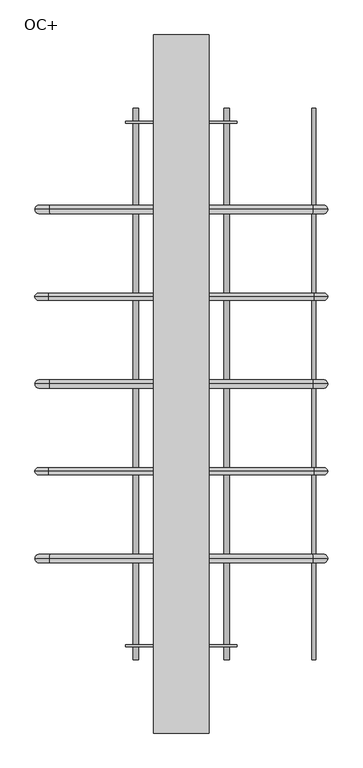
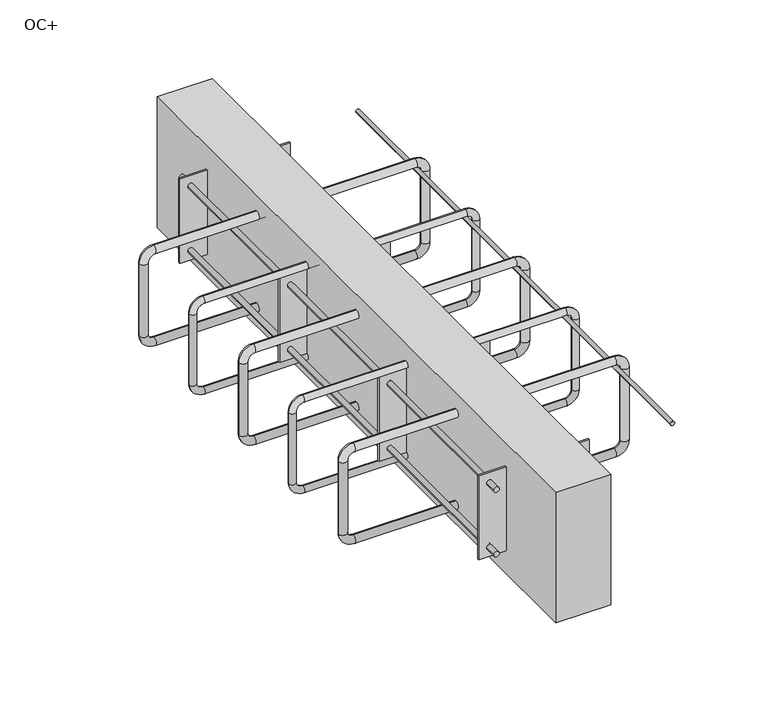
"""IFC4 building model written with IfcOpenShell, lengths in millimetres: proxy geometry, ACINOXplus_Typenreihe_Ux-Ox : OC+."""

from ifc_helpers import new_model, si_unit, point, frame, frame_2d, origin, place, context, project, spatial, polyline, circle_curve, ellipse_curve, trimmed, segment, composite_curve, outline, extrude, source, transform, mapped, element, save
from ifc_brep_helpers import cylinder_surface, revolved_surface, advanced_brep


def oc_8440c7d6(model_context):
    return source(origin(), model_context, "Body", "SolidModel", [
        advanced_brep(
        [(189.0, 0.0, -35.5), (189.0, 0.0, -23.5), (-189.0, 0.0, -23.5), (-189.0, 0.0, -35.5), (-198.0, 0.0, -44.5), (-210.0, 0.0, -44.5), (-210.0, 0.0, -155.5), (-198.0, 0.0, -155.5), (-189.0, 0.0, -164.5), (-189.0, 0.0, -176.5), (189.0, 0.0, -176.5), (189.0, 0.0, -164.5), (198.0, 0.0, -155.5), (210.0, 0.0, -155.5), (210.0, 0.0, -44.5), (198.0, 0.0, -44.5)],
        [
            (0, 1, circle_curve(frame((189.0, 0.0, -29.5), z_axis=(-1.0, 0.0, 0.0), x_axis=(0.0, 0.0, -1.0)), 6.0)),
            (1, 2),
            (2, 3, circle_curve(frame((-189.0, 0.0, -29.5), z_axis=(1.0, 0.0, 0.0), x_axis=(0.0, 0.0, -1.0)), 6.0)),
            (3, 0),
            (1, 0, circle_curve(frame((189.0, 0.0, -29.5), z_axis=(-1.0, 0.0, 0.0), x_axis=(0.0, 0.0, -1.0)), 6.0)),
            (3, 2, circle_curve(frame((-189.0, 0.0, -29.5), z_axis=(1.0, 0.0, 0.0), x_axis=(0.0, 0.0, -1.0)), 6.0)),
            (4, 3, circle_curve(frame((-189.0, 0.0, -44.5), z_axis=(0.0, 1.0, 0.0), x_axis=(0.0, 0.0, 1.0)), 9.0)),
            (2, 5, circle_curve(frame((-189.0, 0.0, -44.5), z_axis=(0.0, -1.0, 0.0), x_axis=(0.0, 0.0, 1.0)), 21.0)),
            (5, 4, circle_curve(frame((-204.0, 0.0, -44.5), z_axis=(0.0, 0.0, 1.0), x_axis=(1.0, 0.0, 0.0)), 6.0)),
            (4, 5, circle_curve(frame((-204.0, 0.0, -44.5), z_axis=(0.0, 0.0, 1.0), x_axis=(1.0, 0.0, 0.0)), 6.0)),
            (5, 6),
            (6, 7, circle_curve(frame((-204.0, 0.0, -155.5), z_axis=(0.0, 0.0, 1.0), x_axis=(1.0, 0.0, 0.0)), 6.0)),
            (7, 4),
            (7, 6, circle_curve(frame((-204.0, 0.0, -155.5), z_axis=(0.0, 0.0, 1.0), x_axis=(1.0, 0.0, 0.0)), 6.0)),
            (8, 7, circle_curve(frame((-189.0, 0.0, -155.5), z_axis=(0.0, 1.0, 0.0), x_axis=(-1.0, 0.0, 0.0)), 9.0)),
            (6, 9, circle_curve(frame((-189.0, 0.0, -155.5), z_axis=(0.0, -1.0, 0.0), x_axis=(-1.0, 0.0, 0.0)), 21.0)),
            (9, 8, circle_curve(frame((-189.0, 0.0, -170.5), z_axis=(-1.0, 0.0, 0.0), x_axis=(0.0, 0.0, 1.0)), 6.0)),
            (8, 9, circle_curve(frame((-189.0, 0.0, -170.5), z_axis=(-1.0, 0.0, 0.0), x_axis=(0.0, 0.0, 1.0)), 6.0)),
            (9, 10),
            (10, 11, circle_curve(frame((189.0, 0.0, -170.5), z_axis=(-1.0, 0.0, 0.0), x_axis=(0.0, 0.0, 1.0)), 6.0)),
            (11, 8),
            (11, 10, circle_curve(frame((189.0, 0.0, -170.5), z_axis=(-1.0, 0.0, 0.0), x_axis=(0.0, 0.0, 1.0)), 6.0)),
            (12, 11, circle_curve(frame((189.0, 0.0, -155.5), z_axis=(0.0, 1.0, 0.0), x_axis=(0.0, 0.0, -1.0)), 9.0)),
            (10, 13, circle_curve(frame((189.0, 0.0, -155.5), z_axis=(0.0, -1.0, 0.0), x_axis=(0.0, 0.0, -1.0)), 21.0)),
            (13, 12, circle_curve(frame((204.0, 0.0, -155.5), z_axis=(0.0, 0.0, -1.0), x_axis=(-1.0, 0.0, 0.0)), 6.0)),
            (12, 13, circle_curve(frame((204.0, 0.0, -155.5), z_axis=(0.0, 0.0, -1.0), x_axis=(-1.0, 0.0, 0.0)), 6.0)),
            (13, 14),
            (14, 15, circle_curve(frame((204.0, 0.0, -44.5), z_axis=(0.0, 0.0, -1.0), x_axis=(-1.0, 0.0, 0.0)), 6.0)),
            (15, 12),
            (15, 14, circle_curve(frame((204.0, 0.0, -44.5), z_axis=(0.0, 0.0, -1.0), x_axis=(-1.0, 0.0, 0.0)), 6.0)),
            (0, 15, circle_curve(frame((189.0, 0.0, -44.5), z_axis=(0.0, 1.0, 0.0), x_axis=(1.0, 0.0, 0.0)), 9.0)),
            (14, 1, circle_curve(frame((189.0, 0.0, -44.5), z_axis=(0.0, -1.0, 0.0), x_axis=(1.0, 0.0, 0.0)), 21.0)),
        ],
        [
            cylinder_surface(frame((189.0, 0.0, -29.5), z_axis=(1.0, 0.0, 0.0), x_axis=(0.0, 0.0, -1.0)), 6.0),
            revolved_surface(trimmed(ellipse_curve(frame((-189.0, 0.0, -29.5), z_axis=(1.0, 0.0, 0.0), x_axis=(0.0, 0.0, -1.0)), 6.0, 6.0), [point((-189.0, 0.0, -23.5))], [point((-189.0, 0.0, -35.5))], True, "CARTESIAN"), (-189.0, 0.0, -44.5), (0.0, -1.0, 0.0)),
            revolved_surface(trimmed(ellipse_curve(frame((-189.0, 0.0, -29.5), z_axis=(1.0, 0.0, 0.0), x_axis=(0.0, 0.0, -1.0)), 6.0, 6.0), [point((-189.0, 0.0, -35.5))], [point((-189.0, 0.0, -23.5))], True, "CARTESIAN"), (-189.0, 0.0, -44.5), (0.0, -1.0, 0.0)),
            cylinder_surface(frame((-204.0, 0.0, -44.5), z_axis=(0.0, 0.0, 1.0), x_axis=(1.0, 0.0, 0.0)), 6.0),
            revolved_surface(trimmed(ellipse_curve(frame((-204.0, 0.0, -155.5), z_axis=(0.0, 0.0, 1.0), x_axis=(1.0, 0.0, 0.0)), 6.0, 6.0), [point((-210.0, 0.0, -155.5))], [point((-198.0, 0.0, -155.5))], True, "CARTESIAN"), (-189.0, 0.0, -155.5), (0.0, -1.0, 0.0)),
            revolved_surface(trimmed(ellipse_curve(frame((-204.0, 0.0, -155.5), z_axis=(0.0, 0.0, 1.0), x_axis=(1.0, 0.0, 0.0)), 6.0, 6.0), [point((-198.0, 0.0, -155.5))], [point((-210.0, 0.0, -155.5))], True, "CARTESIAN"), (-189.0, 0.0, -155.5), (0.0, -1.0, 0.0)),
            cylinder_surface(frame((-189.0, 0.0, -170.5), z_axis=(-1.0, 0.0, 0.0), x_axis=(0.0, 0.0, 1.0)), 6.0),
            revolved_surface(trimmed(ellipse_curve(frame((189.0, 0.0, -170.5), z_axis=(-1.0, 0.0, 0.0), x_axis=(0.0, 0.0, 1.0)), 6.0, 6.0), [point((189.0, 0.0, -176.5))], [point((189.0, 0.0, -164.5))], True, "CARTESIAN"), (189.0, 0.0, -155.5), (0.0, -1.0, 0.0)),
            revolved_surface(trimmed(ellipse_curve(frame((189.0, 0.0, -170.5), z_axis=(-1.0, 0.0, 0.0), x_axis=(0.0, 0.0, 1.0)), 6.0, 6.0), [point((189.0, 0.0, -164.5))], [point((189.0, 0.0, -176.5))], True, "CARTESIAN"), (189.0, 0.0, -155.5), (0.0, -1.0, 0.0)),
            cylinder_surface(frame((204.0, 0.0, -155.5), z_axis=(0.0, 0.0, -1.0), x_axis=(-1.0, 0.0, 0.0)), 6.0),
            revolved_surface(trimmed(ellipse_curve(frame((204.0, 0.0, -44.5), z_axis=(0.0, 0.0, -1.0), x_axis=(-1.0, 0.0, 0.0)), 6.0, 6.0), [point((210.0, 0.0, -44.5))], [point((198.0, 0.0, -44.5))], True, "CARTESIAN"), (189.0, 0.0, -44.5), (0.0, -1.0, 0.0)),
            revolved_surface(trimmed(ellipse_curve(frame((204.0, 0.0, -44.5), z_axis=(0.0, 0.0, -1.0), x_axis=(-1.0, 0.0, 0.0)), 6.0, 6.0), [point((198.0, 0.0, -44.5))], [point((210.0, 0.0, -44.5))], True, "CARTESIAN"), (189.0, 0.0, -44.5), (0.0, -1.0, 0.0)),
        ],
        [
            (0, [[1, 2, 3, 4]]),
            (0, [[5, -4, 6, -2]]),
            (1, [[7, -3, 8, 9]]),
            (2, [[-8, -6, -7, 10]]),
            (3, [[-9, 11, 12, 13]]),
            (3, [[-10, -13, 14, -11]]),
            (4, [[15, -12, 16, 17]]),
            (5, [[-16, -14, -15, 18]]),
            (6, [[-17, 19, 20, 21]]),
            (6, [[-18, -21, 22, -19]]),
            (7, [[23, -20, 24, 25]]),
            (8, [[-24, -22, -23, 26]]),
            (9, [[-25, 27, 28, 29]]),
            (9, [[-26, -29, 30, -27]]),
            (10, [[31, -28, 32, -1]]),
            (11, [[-32, -30, -31, -5]]),
        ],
    ),
        advanced_brep(
        [(189.0, 250.0, -35.5), (189.0, 250.0, -23.5), (-189.0, 250.0, -23.5), (-189.0, 250.0, -35.5), (-198.0, 250.0, -44.5), (-210.0, 250.0, -44.5), (-210.0, 250.0, -155.5), (-198.0, 250.0, -155.5), (-189.0, 250.0, -164.5), (-189.0, 250.0, -176.5), (189.0, 250.0, -176.5), (189.0, 250.0, -164.5), (198.0, 250.0, -155.5), (210.0, 250.0, -155.5), (210.0, 250.0, -44.5), (198.0, 250.0, -44.5)],
        [
            (0, 1, circle_curve(frame((189.0, 250.0, -29.5), z_axis=(-1.0, 0.0, 0.0), x_axis=(0.0, 0.0, -1.0)), 6.0)),
            (1, 2),
            (2, 3, circle_curve(frame((-189.0, 250.0, -29.5), z_axis=(1.0, 0.0, 0.0), x_axis=(0.0, 0.0, -1.0)), 6.0)),
            (3, 0),
            (1, 0, circle_curve(frame((189.0, 250.0, -29.5), z_axis=(-1.0, 0.0, 0.0), x_axis=(0.0, 0.0, -1.0)), 6.0)),
            (3, 2, circle_curve(frame((-189.0, 250.0, -29.5), z_axis=(1.0, 0.0, 0.0), x_axis=(0.0, 0.0, -1.0)), 6.0)),
            (4, 3, circle_curve(frame((-189.0, 250.0, -44.5), z_axis=(0.0, 1.0, 0.0), x_axis=(0.0, 0.0, 1.0)), 9.0)),
            (2, 5, circle_curve(frame((-189.0, 250.0, -44.5), z_axis=(0.0, -1.0, 0.0), x_axis=(0.0, 0.0, 1.0)), 21.0)),
            (5, 4, circle_curve(frame((-204.0, 250.0, -44.5), z_axis=(0.0, 0.0, 1.0), x_axis=(1.0, 0.0, 0.0)), 6.0)),
            (4, 5, circle_curve(frame((-204.0, 250.0, -44.5), z_axis=(0.0, 0.0, 1.0), x_axis=(1.0, 0.0, 0.0)), 6.0)),
            (5, 6),
            (6, 7, circle_curve(frame((-204.0, 250.0, -155.5), z_axis=(0.0, 0.0, 1.0), x_axis=(1.0, 0.0, 0.0)), 6.0)),
            (7, 4),
            (7, 6, circle_curve(frame((-204.0, 250.0, -155.5), z_axis=(0.0, 0.0, 1.0), x_axis=(1.0, 0.0, 0.0)), 6.0)),
            (8, 7, circle_curve(frame((-189.0, 250.0, -155.5), z_axis=(0.0, 1.0, 0.0), x_axis=(-1.0, 0.0, 0.0)), 9.0)),
            (6, 9, circle_curve(frame((-189.0, 250.0, -155.5), z_axis=(0.0, -1.0, 0.0), x_axis=(-1.0, 0.0, 0.0)), 21.0)),
            (9, 8, circle_curve(frame((-189.0, 250.0, -170.5), z_axis=(-1.0, 0.0, 0.0), x_axis=(0.0, 0.0, 1.0)), 6.0)),
            (8, 9, circle_curve(frame((-189.0, 250.0, -170.5), z_axis=(-1.0, 0.0, 0.0), x_axis=(0.0, 0.0, 1.0)), 6.0)),
            (9, 10),
            (10, 11, circle_curve(frame((189.0, 250.0, -170.5), z_axis=(-1.0, 0.0, 0.0), x_axis=(0.0, 0.0, 1.0)), 6.0)),
            (11, 8),
            (11, 10, circle_curve(frame((189.0, 250.0, -170.5), z_axis=(-1.0, 0.0, 0.0), x_axis=(0.0, 0.0, 1.0)), 6.0)),
            (12, 11, circle_curve(frame((189.0, 250.0, -155.5), z_axis=(0.0, 1.0, 0.0), x_axis=(0.0, 0.0, -1.0)), 9.0)),
            (10, 13, circle_curve(frame((189.0, 250.0, -155.5), z_axis=(0.0, -1.0, 0.0), x_axis=(0.0, 0.0, -1.0)), 21.0)),
            (13, 12, circle_curve(frame((204.0, 250.0, -155.5), z_axis=(0.0, 0.0, -1.0), x_axis=(-1.0, 0.0, 0.0)), 6.0)),
            (12, 13, circle_curve(frame((204.0, 250.0, -155.5), z_axis=(0.0, 0.0, -1.0), x_axis=(-1.0, 0.0, 0.0)), 6.0)),
            (13, 14),
            (14, 15, circle_curve(frame((204.0, 250.0, -44.5), z_axis=(0.0, 0.0, -1.0), x_axis=(-1.0, 0.0, 0.0)), 6.0)),
            (15, 12),
            (15, 14, circle_curve(frame((204.0, 250.0, -44.5), z_axis=(0.0, 0.0, -1.0), x_axis=(-1.0, 0.0, 0.0)), 6.0)),
            (0, 15, circle_curve(frame((189.0, 250.0, -44.5), z_axis=(0.0, 1.0, 0.0), x_axis=(1.0, 0.0, 0.0)), 9.0)),
            (14, 1, circle_curve(frame((189.0, 250.0, -44.5), z_axis=(0.0, -1.0, 0.0), x_axis=(1.0, 0.0, 0.0)), 21.0)),
        ],
        [
            cylinder_surface(frame((189.0, 250.0, -29.5), z_axis=(1.0, 0.0, 0.0), x_axis=(0.0, 0.0, -1.0)), 6.0),
            revolved_surface(trimmed(ellipse_curve(frame((-189.0, 250.0, -29.5), z_axis=(1.0, 0.0, 0.0), x_axis=(0.0, 0.0, -1.0)), 6.0, 6.0), [point((-189.0, 250.0, -23.5))], [point((-189.0, 250.0, -35.5))], True, "CARTESIAN"), (-189.0, 250.0, -44.5), (0.0, -1.0, 0.0)),
            revolved_surface(trimmed(ellipse_curve(frame((-189.0, 250.0, -29.5), z_axis=(1.0, 0.0, 0.0), x_axis=(0.0, 0.0, -1.0)), 6.0, 6.0), [point((-189.0, 250.0, -35.5))], [point((-189.0, 250.0, -23.5))], True, "CARTESIAN"), (-189.0, 250.0, -44.5), (0.0, -1.0, 0.0)),
            cylinder_surface(frame((-204.0, 250.0, -44.5), z_axis=(0.0, 0.0, 1.0), x_axis=(1.0, 0.0, 0.0)), 6.0),
            revolved_surface(trimmed(ellipse_curve(frame((-204.0, 250.0, -155.5), z_axis=(0.0, 0.0, 1.0), x_axis=(1.0, 0.0, 0.0)), 6.0, 6.0), [point((-210.0, 250.0, -155.5))], [point((-198.0, 250.0, -155.5))], True, "CARTESIAN"), (-189.0, 250.0, -155.5), (0.0, -1.0, 0.0)),
            revolved_surface(trimmed(ellipse_curve(frame((-204.0, 250.0, -155.5), z_axis=(0.0, 0.0, 1.0), x_axis=(1.0, 0.0, 0.0)), 6.0, 6.0), [point((-198.0, 250.0, -155.5))], [point((-210.0, 250.0, -155.5))], True, "CARTESIAN"), (-189.0, 250.0, -155.5), (0.0, -1.0, 0.0)),
            cylinder_surface(frame((-189.0, 250.0, -170.5), z_axis=(-1.0, 0.0, 0.0), x_axis=(0.0, 0.0, 1.0)), 6.0),
            revolved_surface(trimmed(ellipse_curve(frame((189.0, 250.0, -170.5), z_axis=(-1.0, 0.0, 0.0), x_axis=(0.0, 0.0, 1.0)), 6.0, 6.0), [point((189.0, 250.0, -176.5))], [point((189.0, 250.0, -164.5))], True, "CARTESIAN"), (189.0, 250.0, -155.5), (0.0, -1.0, 0.0)),
            revolved_surface(trimmed(ellipse_curve(frame((189.0, 250.0, -170.5), z_axis=(-1.0, 0.0, 0.0), x_axis=(0.0, 0.0, 1.0)), 6.0, 6.0), [point((189.0, 250.0, -164.5))], [point((189.0, 250.0, -176.5))], True, "CARTESIAN"), (189.0, 250.0, -155.5), (0.0, -1.0, 0.0)),
            cylinder_surface(frame((204.0, 250.0, -155.5), z_axis=(0.0, 0.0, -1.0), x_axis=(-1.0, 0.0, 0.0)), 6.0),
            revolved_surface(trimmed(ellipse_curve(frame((204.0, 250.0, -44.5), z_axis=(0.0, 0.0, -1.0), x_axis=(-1.0, 0.0, 0.0)), 6.0, 6.0), [point((210.0, 250.0, -44.5))], [point((198.0, 250.0, -44.5))], True, "CARTESIAN"), (189.0, 250.0, -44.5), (0.0, -1.0, 0.0)),
            revolved_surface(trimmed(ellipse_curve(frame((204.0, 250.0, -44.5), z_axis=(0.0, 0.0, -1.0), x_axis=(-1.0, 0.0, 0.0)), 6.0, 6.0), [point((198.0, 250.0, -44.5))], [point((210.0, 250.0, -44.5))], True, "CARTESIAN"), (189.0, 250.0, -44.5), (0.0, -1.0, 0.0)),
        ],
        [
            (0, [[1, 2, 3, 4]]),
            (0, [[5, -4, 6, -2]]),
            (1, [[7, -3, 8, 9]]),
            (2, [[-8, -6, -7, 10]]),
            (3, [[-9, 11, 12, 13]]),
            (3, [[-10, -13, 14, -11]]),
            (4, [[15, -12, 16, 17]]),
            (5, [[-16, -14, -15, 18]]),
            (6, [[-17, 19, 20, 21]]),
            (6, [[-18, -21, 22, -19]]),
            (7, [[23, -20, 24, 25]]),
            (8, [[-24, -22, -23, 26]]),
            (9, [[-25, 27, 28, 29]]),
            (9, [[-26, -29, 30, -27]]),
            (10, [[31, -28, 32, -1]]),
            (11, [[-32, -30, -31, -5]]),
        ],
    ),
        advanced_brep(
        [(189.0, -250.0, -35.5), (189.0, -250.0, -23.5), (-189.0, -250.0, -23.5), (-189.0, -250.0, -35.5), (-198.0, -250.0, -44.5), (-210.0, -250.0, -44.5), (-210.0, -250.0, -155.5), (-198.0, -250.0, -155.5), (-189.0, -250.0, -164.5), (-189.0, -250.0, -176.5), (189.0, -250.0, -176.5), (189.0, -250.0, -164.5), (198.0, -250.0, -155.5), (210.0, -250.0, -155.5), (210.0, -250.0, -44.5), (198.0, -250.0, -44.5)],
        [
            (0, 1, circle_curve(frame((189.0, -250.0, -29.5), z_axis=(-1.0, 0.0, 0.0), x_axis=(0.0, 0.0, -1.0)), 6.0)),
            (1, 2),
            (2, 3, circle_curve(frame((-189.0, -250.0, -29.5), z_axis=(1.0, 0.0, 0.0), x_axis=(0.0, 0.0, -1.0)), 6.0)),
            (3, 0),
            (1, 0, circle_curve(frame((189.0, -250.0, -29.5), z_axis=(-1.0, 0.0, 0.0), x_axis=(0.0, 0.0, -1.0)), 6.0)),
            (3, 2, circle_curve(frame((-189.0, -250.0, -29.5), z_axis=(1.0, 0.0, 0.0), x_axis=(0.0, 0.0, -1.0)), 6.0)),
            (4, 3, circle_curve(frame((-189.0, -250.0, -44.5), z_axis=(0.0, 1.0, 0.0), x_axis=(0.0, 0.0, 1.0)), 9.0)),
            (2, 5, circle_curve(frame((-189.0, -250.0, -44.5), z_axis=(0.0, -1.0, 0.0), x_axis=(0.0, 0.0, 1.0)), 21.0)),
            (5, 4, circle_curve(frame((-204.0, -250.0, -44.5), z_axis=(0.0, 0.0, 1.0), x_axis=(1.0, 0.0, 0.0)), 6.0)),
            (4, 5, circle_curve(frame((-204.0, -250.0, -44.5), z_axis=(0.0, 0.0, 1.0), x_axis=(1.0, 0.0, 0.0)), 6.0)),
            (5, 6),
            (6, 7, circle_curve(frame((-204.0, -250.0, -155.5), z_axis=(0.0, 0.0, 1.0), x_axis=(1.0, 0.0, 0.0)), 6.0)),
            (7, 4),
            (7, 6, circle_curve(frame((-204.0, -250.0, -155.5), z_axis=(0.0, 0.0, 1.0), x_axis=(1.0, 0.0, 0.0)), 6.0)),
            (8, 7, circle_curve(frame((-189.0, -250.0, -155.5), z_axis=(0.0, 1.0, 0.0), x_axis=(-1.0, 0.0, 0.0)), 9.0)),
            (6, 9, circle_curve(frame((-189.0, -250.0, -155.5), z_axis=(0.0, -1.0, 0.0), x_axis=(-1.0, 0.0, 0.0)), 21.0)),
            (9, 8, circle_curve(frame((-189.0, -250.0, -170.5), z_axis=(-1.0, 0.0, 0.0), x_axis=(0.0, 0.0, 1.0)), 6.0)),
            (8, 9, circle_curve(frame((-189.0, -250.0, -170.5), z_axis=(-1.0, 0.0, 0.0), x_axis=(0.0, 0.0, 1.0)), 6.0)),
            (9, 10),
            (10, 11, circle_curve(frame((189.0, -250.0, -170.5), z_axis=(-1.0, 0.0, 0.0), x_axis=(0.0, 0.0, 1.0)), 6.0)),
            (11, 8),
            (11, 10, circle_curve(frame((189.0, -250.0, -170.5), z_axis=(-1.0, 0.0, 0.0), x_axis=(0.0, 0.0, 1.0)), 6.0)),
            (12, 11, circle_curve(frame((189.0, -250.0, -155.5), z_axis=(0.0, 1.0, 0.0), x_axis=(0.0, 0.0, -1.0)), 9.0)),
            (10, 13, circle_curve(frame((189.0, -250.0, -155.5), z_axis=(0.0, -1.0, 0.0), x_axis=(0.0, 0.0, -1.0)), 21.0)),
            (13, 12, circle_curve(frame((204.0, -250.0, -155.5), z_axis=(0.0, 0.0, -1.0), x_axis=(-1.0, 0.0, 0.0)), 6.0)),
            (12, 13, circle_curve(frame((204.0, -250.0, -155.5), z_axis=(0.0, 0.0, -1.0), x_axis=(-1.0, 0.0, 0.0)), 6.0)),
            (13, 14),
            (14, 15, circle_curve(frame((204.0, -250.0, -44.5), z_axis=(0.0, 0.0, -1.0), x_axis=(-1.0, 0.0, 0.0)), 6.0)),
            (15, 12),
            (15, 14, circle_curve(frame((204.0, -250.0, -44.5), z_axis=(0.0, 0.0, -1.0), x_axis=(-1.0, 0.0, 0.0)), 6.0)),
            (0, 15, circle_curve(frame((189.0, -250.0, -44.5), z_axis=(0.0, 1.0, 0.0), x_axis=(1.0, 0.0, 0.0)), 9.0)),
            (14, 1, circle_curve(frame((189.0, -250.0, -44.5), z_axis=(0.0, -1.0, 0.0), x_axis=(1.0, 0.0, 0.0)), 21.0)),
        ],
        [
            cylinder_surface(frame((189.0, -250.0, -29.5), z_axis=(1.0, 0.0, 0.0), x_axis=(0.0, 0.0, -1.0)), 6.0),
            revolved_surface(trimmed(ellipse_curve(frame((-189.0, -250.0, -29.5), z_axis=(1.0, 0.0, 0.0), x_axis=(0.0, 0.0, -1.0)), 6.0, 6.0), [point((-189.0, -250.0, -23.5))], [point((-189.0, -250.0, -35.5))], True, "CARTESIAN"), (-189.0, -250.0, -44.5), (0.0, -1.0, 0.0)),
            revolved_surface(trimmed(ellipse_curve(frame((-189.0, -250.0, -29.5), z_axis=(1.0, 0.0, 0.0), x_axis=(0.0, 0.0, -1.0)), 6.0, 6.0), [point((-189.0, -250.0, -35.5))], [point((-189.0, -250.0, -23.5))], True, "CARTESIAN"), (-189.0, -250.0, -44.5), (0.0, -1.0, 0.0)),
            cylinder_surface(frame((-204.0, -250.0, -44.5), z_axis=(0.0, 0.0, 1.0), x_axis=(1.0, 0.0, 0.0)), 6.0),
            revolved_surface(trimmed(ellipse_curve(frame((-204.0, -250.0, -155.5), z_axis=(0.0, 0.0, 1.0), x_axis=(1.0, 0.0, 0.0)), 6.0, 6.0), [point((-210.0, -250.0, -155.5))], [point((-198.0, -250.0, -155.5))], True, "CARTESIAN"), (-189.0, -250.0, -155.5), (0.0, -1.0, 0.0)),
            revolved_surface(trimmed(ellipse_curve(frame((-204.0, -250.0, -155.5), z_axis=(0.0, 0.0, 1.0), x_axis=(1.0, 0.0, 0.0)), 6.0, 6.0), [point((-198.0, -250.0, -155.5))], [point((-210.0, -250.0, -155.5))], True, "CARTESIAN"), (-189.0, -250.0, -155.5), (0.0, -1.0, 0.0)),
            cylinder_surface(frame((-189.0, -250.0, -170.5), z_axis=(-1.0, 0.0, 0.0), x_axis=(0.0, 0.0, 1.0)), 6.0),
            revolved_surface(trimmed(ellipse_curve(frame((189.0, -250.0, -170.5), z_axis=(-1.0, 0.0, 0.0), x_axis=(0.0, 0.0, 1.0)), 6.0, 6.0), [point((189.0, -250.0, -176.5))], [point((189.0, -250.0, -164.5))], True, "CARTESIAN"), (189.0, -250.0, -155.5), (0.0, -1.0, 0.0)),
            revolved_surface(trimmed(ellipse_curve(frame((189.0, -250.0, -170.5), z_axis=(-1.0, 0.0, 0.0), x_axis=(0.0, 0.0, 1.0)), 6.0, 6.0), [point((189.0, -250.0, -164.5))], [point((189.0, -250.0, -176.5))], True, "CARTESIAN"), (189.0, -250.0, -155.5), (0.0, -1.0, 0.0)),
            cylinder_surface(frame((204.0, -250.0, -155.5), z_axis=(0.0, 0.0, -1.0), x_axis=(-1.0, 0.0, 0.0)), 6.0),
            revolved_surface(trimmed(ellipse_curve(frame((204.0, -250.0, -44.5), z_axis=(0.0, 0.0, -1.0), x_axis=(-1.0, 0.0, 0.0)), 6.0, 6.0), [point((210.0, -250.0, -44.5))], [point((198.0, -250.0, -44.5))], True, "CARTESIAN"), (189.0, -250.0, -44.5), (0.0, -1.0, 0.0)),
            revolved_surface(trimmed(ellipse_curve(frame((204.0, -250.0, -44.5), z_axis=(0.0, 0.0, -1.0), x_axis=(-1.0, 0.0, 0.0)), 6.0, 6.0), [point((198.0, -250.0, -44.5))], [point((210.0, -250.0, -44.5))], True, "CARTESIAN"), (189.0, -250.0, -44.5), (0.0, -1.0, 0.0)),
        ],
        [
            (0, [[1, 2, 3, 4]]),
            (0, [[5, -4, 6, -2]]),
            (1, [[7, -3, 8, 9]]),
            (2, [[-8, -6, -7, 10]]),
            (3, [[-9, 11, 12, 13]]),
            (3, [[-10, -13, 14, -11]]),
            (4, [[15, -12, 16, 17]]),
            (5, [[-16, -14, -15, 18]]),
            (6, [[-17, 19, 20, 21]]),
            (6, [[-18, -21, 22, -19]]),
            (7, [[23, -20, 24, 25]]),
            (8, [[-24, -22, -23, 26]]),
            (9, [[-25, 27, 28, 29]]),
            (9, [[-26, -29, 30, -27]]),
            (10, [[31, -28, 32, -1]]),
            (11, [[-32, -30, -31, -5]]),
        ],
    ),
        extrude(outline(composite_curve([segment(trimmed(circle_curve(frame_2d((-38.5, 190.0)), 3.0), [point((-38.5, 193.0))], [point((-38.5, 187.0))], False, "CARTESIAN"), True, "CONTINUOUS"), segment(trimmed(circle_curve(frame_2d((-38.5, 190.0)), 3.0), [point((-38.5, 187.0))], [point((-38.5, 193.0))], False, "CARTESIAN"), True, "CONTINUOUS")], self_intersect=False)), frame((0.0, -395.0, 0.0), z_axis=(0.0, 1.0, 0.0), x_axis=(0.0, 0.0, 1.0)), (0.0, 0.0, 1.0), 790.0),
        extrude(outline(polyline([(40.0, 500.0), (40.0, -500.0), (-40.0, -500.0), (-40.0, 500.0), (40.0, 500.0)])), frame((0.0, 0.0, -200.0), z_axis=(0.0, 0.0, 1.0), x_axis=(1.0, 0.0, 0.0)), (0.0, 0.0, 1.0), 200.0),
        extrude(outline(polyline([(80.0, -123.5), (80.0, -126.5), (-80.0, -126.5), (-80.0, -123.5), (80.0, -123.5)])), frame((0.0, 0.0, -164.5), z_axis=(0.0, 0.0, 1.0), x_axis=(1.0, 0.0, 0.0)), (0.0, 0.0, 1.0), 129.0),
        extrude(outline(polyline([(80.0, 126.5), (80.0, 123.5), (-80.0, 123.5), (-80.0, 126.5), (80.0, 126.5)])), frame((0.0, 0.0, -164.5), z_axis=(0.0, 0.0, 1.0), x_axis=(1.0, 0.0, 0.0)), (0.0, 0.0, 1.0), 129.0),
        extrude(outline(polyline([(80.0, -373.5), (80.0, -376.5), (-80.0, -376.5), (-80.0, -373.5), (80.0, -373.5)])), frame((0.0, 0.0, -164.5), z_axis=(0.0, 0.0, 1.0), x_axis=(1.0, 0.0, 0.0)), (0.0, 0.0, 1.0), 129.0),
        extrude(outline(polyline([(80.0, 376.5), (80.0, 373.5), (-80.0, 373.5), (-80.0, 376.5), (80.0, 376.5)])), frame((0.0, 0.0, -164.5), z_axis=(0.0, 0.0, 1.0), x_axis=(1.0, 0.0, 0.0)), (0.0, 0.0, 1.0), 129.0),
        extrude(outline(composite_curve([segment(trimmed(circle_curve(frame_2d((-149.5, -65.0)), 4.0), [point((-149.5, -61.0))], [point((-149.5, -69.0))], False, "CARTESIAN"), True, "CONTINUOUS"), segment(trimmed(circle_curve(frame_2d((-149.5, -65.0)), 4.0), [point((-149.5, -69.0))], [point((-149.5, -61.0))], False, "CARTESIAN"), True, "CONTINUOUS")], self_intersect=False)), frame((0.0, -395.0, 0.0), z_axis=(0.0, 1.0, 0.0), x_axis=(0.0, 0.0, 1.0)), (0.0, 0.0, 1.0), 18.5),
        extrude(outline(composite_curve([segment(trimmed(circle_curve(frame_2d((-149.5, -65.0)), 4.0), [point((-149.5, -69.0))], [point((-149.5, -61.0))], False, "CARTESIAN"), True, "CONTINUOUS"), segment(trimmed(circle_curve(frame_2d((-149.5, -65.0)), 4.0), [point((-149.5, -61.0))], [point((-149.5, -69.0))], False, "CARTESIAN"), True, "CONTINUOUS")], self_intersect=False)), frame((0.0, -373.5, 0.0), z_axis=(0.0, 1.0, 0.0), x_axis=(0.0, 0.0, 1.0)), (0.0, 0.0, 1.0), 497.0),
        extrude(outline(composite_curve([segment(trimmed(circle_curve(frame_2d((-149.5, -65.0)), 4.0), [point((-149.5, -69.0))], [point((-149.5, -61.0))], False, "CARTESIAN"), True, "CONTINUOUS"), segment(trimmed(circle_curve(frame_2d((-149.5, -65.0)), 4.0), [point((-149.5, -61.0))], [point((-149.5, -69.0))], False, "CARTESIAN"), True, "CONTINUOUS")], self_intersect=False)), frame((0.0, 376.5, 0.0), z_axis=(0.0, 1.0, 0.0), x_axis=(0.0, 0.0, 1.0)), (0.0, 0.0, 1.0), 18.5),
        extrude(outline(composite_curve([segment(trimmed(circle_curve(frame_2d((-149.5, -65.0)), 4.0), [point((-149.5, -69.0))], [point((-149.5, -61.0))], False, "CARTESIAN"), True, "CONTINUOUS"), segment(trimmed(circle_curve(frame_2d((-149.5, -65.0)), 4.0), [point((-149.5, -61.0))], [point((-149.5, -69.0))], False, "CARTESIAN"), True, "CONTINUOUS")], self_intersect=False)), frame((0.0, 126.5, 0.0), z_axis=(0.0, 1.0, 0.0), x_axis=(0.0, 0.0, 1.0)), (0.0, 0.0, 1.0), 247.0),
        extrude(outline(composite_curve([segment(trimmed(circle_curve(frame_2d((-149.5, 65.0)), 4.0), [point((-149.5, 69.0))], [point((-149.5, 61.0))], False, "CARTESIAN"), True, "CONTINUOUS"), segment(trimmed(circle_curve(frame_2d((-149.5, 65.0)), 4.0), [point((-149.5, 61.0))], [point((-149.5, 69.0))], False, "CARTESIAN"), True, "CONTINUOUS")], self_intersect=False)), frame((0.0, -395.0, 0.0), z_axis=(0.0, 1.0, 0.0), x_axis=(0.0, 0.0, 1.0)), (0.0, 0.0, 1.0), 18.5),
        extrude(outline(composite_curve([segment(trimmed(circle_curve(frame_2d((-149.5, 65.0)), 4.0), [point((-149.5, 61.0))], [point((-149.5, 69.0))], False, "CARTESIAN"), True, "CONTINUOUS"), segment(trimmed(circle_curve(frame_2d((-149.5, 65.0)), 4.0), [point((-149.5, 69.0))], [point((-149.5, 61.0))], False, "CARTESIAN"), True, "CONTINUOUS")], self_intersect=False)), frame((0.0, -373.5, 0.0), z_axis=(0.0, 1.0, 0.0), x_axis=(0.0, 0.0, 1.0)), (0.0, 0.0, 1.0), 497.0),
        extrude(outline(composite_curve([segment(trimmed(circle_curve(frame_2d((-149.5, 65.0)), 4.0), [point((-149.5, 61.0))], [point((-149.5, 69.0))], False, "CARTESIAN"), True, "CONTINUOUS"), segment(trimmed(circle_curve(frame_2d((-149.5, 65.0)), 4.0), [point((-149.5, 69.0))], [point((-149.5, 61.0))], False, "CARTESIAN"), True, "CONTINUOUS")], self_intersect=False)), frame((0.0, 376.5, 0.0), z_axis=(0.0, 1.0, 0.0), x_axis=(0.0, 0.0, 1.0)), (0.0, 0.0, 1.0), 18.5),
        extrude(outline(composite_curve([segment(trimmed(circle_curve(frame_2d((-149.5, 65.0)), 4.0), [point((-149.5, 61.0))], [point((-149.5, 69.0))], False, "CARTESIAN"), True, "CONTINUOUS"), segment(trimmed(circle_curve(frame_2d((-149.5, 65.0)), 4.0), [point((-149.5, 69.0))], [point((-149.5, 61.0))], False, "CARTESIAN"), True, "CONTINUOUS")], self_intersect=False)), frame((0.0, 126.5, 0.0), z_axis=(0.0, 1.0, 0.0), x_axis=(0.0, 0.0, 1.0)), (0.0, 0.0, 1.0), 247.0),
        extrude(outline(composite_curve([segment(trimmed(circle_curve(frame_2d((-50.5, -65.0)), 4.0), [point((-50.5, -69.0))], [point((-50.5, -61.0))], False, "CARTESIAN"), True, "CONTINUOUS"), segment(trimmed(circle_curve(frame_2d((-50.5, -65.0)), 4.0), [point((-50.5, -61.0))], [point((-50.5, -69.0))], False, "CARTESIAN"), True, "CONTINUOUS")], self_intersect=False)), frame((0.0, 376.5, 0.0), z_axis=(0.0, 1.0, 0.0), x_axis=(0.0, 0.0, 1.0)), (0.0, 0.0, 1.0), 18.5),
        extrude(outline(composite_curve([segment(trimmed(circle_curve(frame_2d((-50.5, -65.0)), 4.0), [point((-50.5, -61.0))], [point((-50.5, -69.0))], False, "CARTESIAN"), True, "CONTINUOUS"), segment(trimmed(circle_curve(frame_2d((-50.5, -65.0)), 4.0), [point((-50.5, -69.0))], [point((-50.5, -61.0))], False, "CARTESIAN"), True, "CONTINUOUS")], self_intersect=False)), frame((0.0, -395.0, 0.0), z_axis=(0.0, 1.0, 0.0), x_axis=(0.0, 0.0, 1.0)), (0.0, 0.0, 1.0), 18.5),
        extrude(outline(composite_curve([segment(trimmed(circle_curve(frame_2d((-50.5, -65.0)), 4.0), [point((-50.5, -69.0))], [point((-50.5, -61.0))], False, "CARTESIAN"), True, "CONTINUOUS"), segment(trimmed(circle_curve(frame_2d((-50.5, -65.0)), 4.0), [point((-50.5, -61.0))], [point((-50.5, -69.0))], False, "CARTESIAN"), True, "CONTINUOUS")], self_intersect=False)), frame((0.0, -373.5, 0.0), z_axis=(0.0, 1.0, 0.0), x_axis=(0.0, 0.0, 1.0)), (0.0, 0.0, 1.0), 497.0),
        extrude(outline(composite_curve([segment(trimmed(circle_curve(frame_2d((-50.5, -65.0)), 4.0), [point((-50.5, -69.0))], [point((-50.5, -61.0))], False, "CARTESIAN"), True, "CONTINUOUS"), segment(trimmed(circle_curve(frame_2d((-50.5, -65.0)), 4.0), [point((-50.5, -61.0))], [point((-50.5, -69.0))], False, "CARTESIAN"), True, "CONTINUOUS")], self_intersect=False)), frame((0.0, 126.5, 0.0), z_axis=(0.0, 1.0, 0.0), x_axis=(0.0, 0.0, 1.0)), (0.0, 0.0, 1.0), 247.0),
        extrude(outline(composite_curve([segment(trimmed(circle_curve(frame_2d((-50.5, 65.0)), 4.0), [point((-50.5, 61.0))], [point((-50.5, 69.0))], False, "CARTESIAN"), True, "CONTINUOUS"), segment(trimmed(circle_curve(frame_2d((-50.5, 65.0)), 4.0), [point((-50.5, 69.0))], [point((-50.5, 61.0))], False, "CARTESIAN"), True, "CONTINUOUS")], self_intersect=False)), frame((0.0, 376.5, 0.0), z_axis=(0.0, 1.0, 0.0), x_axis=(0.0, 0.0, 1.0)), (0.0, 0.0, 1.0), 18.5),
        extrude(outline(composite_curve([segment(trimmed(circle_curve(frame_2d((-50.5, 65.0)), 4.0), [point((-50.5, 69.0))], [point((-50.5, 61.0))], False, "CARTESIAN"), True, "CONTINUOUS"), segment(trimmed(circle_curve(frame_2d((-50.5, 65.0)), 4.0), [point((-50.5, 61.0))], [point((-50.5, 69.0))], False, "CARTESIAN"), True, "CONTINUOUS")], self_intersect=False)), frame((0.0, -395.0, 0.0), z_axis=(0.0, 1.0, 0.0), x_axis=(0.0, 0.0, 1.0)), (0.0, 0.0, 1.0), 18.5),
        extrude(outline(composite_curve([segment(trimmed(circle_curve(frame_2d((-50.5, 65.0)), 4.0), [point((-50.5, 61.0))], [point((-50.5, 69.0))], False, "CARTESIAN"), True, "CONTINUOUS"), segment(trimmed(circle_curve(frame_2d((-50.5, 65.0)), 4.0), [point((-50.5, 69.0))], [point((-50.5, 61.0))], False, "CARTESIAN"), True, "CONTINUOUS")], self_intersect=False)), frame((0.0, -373.5, 0.0), z_axis=(0.0, 1.0, 0.0), x_axis=(0.0, 0.0, 1.0)), (0.0, 0.0, 1.0), 497.0),
        extrude(outline(composite_curve([segment(trimmed(circle_curve(frame_2d((-50.5, 65.0)), 4.0), [point((-50.5, 61.0))], [point((-50.5, 69.0))], False, "CARTESIAN"), True, "CONTINUOUS"), segment(trimmed(circle_curve(frame_2d((-50.5, 65.0)), 4.0), [point((-50.5, 69.0))], [point((-50.5, 61.0))], False, "CARTESIAN"), True, "CONTINUOUS")], self_intersect=False)), frame((0.0, 126.5, 0.0), z_axis=(0.0, 1.0, 0.0), x_axis=(0.0, 0.0, 1.0)), (0.0, 0.0, 1.0), 247.0),
        advanced_brep(
        [(190.0, 125.0, -35.5), (190.0, 125.0, -25.5), (-190.0, 125.0, -25.5), (-190.0, 125.0, -35.5), (-200.0, 125.0, -45.5), (-210.0, 125.0, -45.5), (-210.0, 125.0, -154.5), (-200.0, 125.0, -154.5), (-190.0, 125.0, -164.5), (-190.0, 125.0, -174.5), (190.0, 125.0, -174.5), (190.0, 125.0, -164.5), (200.0, 125.0, -154.5), (210.0, 125.0, -154.5), (210.0, 125.0, -45.5), (200.0, 125.0, -45.5)],
        [
            (0, 1, circle_curve(frame((190.0, 125.0, -30.5), z_axis=(-1.0, 0.0, 0.0), x_axis=(0.0, 0.0, -1.0)), 5.0)),
            (1, 2),
            (2, 3, circle_curve(frame((-190.0, 125.0, -30.5), z_axis=(1.0, 0.0, 0.0), x_axis=(0.0, 0.0, -1.0)), 5.0)),
            (3, 0),
            (1, 0, circle_curve(frame((190.0, 125.0, -30.5), z_axis=(-1.0, 0.0, 0.0), x_axis=(0.0, 0.0, -1.0)), 5.0)),
            (3, 2, circle_curve(frame((-190.0, 125.0, -30.5), z_axis=(1.0, 0.0, 0.0), x_axis=(0.0, 0.0, -1.0)), 5.0)),
            (4, 3, circle_curve(frame((-190.0, 125.0, -45.5), z_axis=(0.0, 1.0, 0.0), x_axis=(0.0, 0.0, 1.0)), 10.0)),
            (2, 5, circle_curve(frame((-190.0, 125.0, -45.5), z_axis=(0.0, -1.0, 0.0), x_axis=(0.0, 0.0, 1.0)), 20.0)),
            (5, 4, circle_curve(frame((-205.0, 125.0, -45.5), z_axis=(0.0, 0.0, 1.0), x_axis=(1.0, 0.0, 0.0)), 5.0)),
            (4, 5, circle_curve(frame((-205.0, 125.0, -45.5), z_axis=(0.0, 0.0, 1.0), x_axis=(1.0, 0.0, 0.0)), 5.0)),
            (5, 6),
            (6, 7, circle_curve(frame((-205.0, 125.0, -154.5), z_axis=(0.0, 0.0, 1.0), x_axis=(1.0, 0.0, 0.0)), 5.0)),
            (7, 4),
            (7, 6, circle_curve(frame((-205.0, 125.0, -154.5), z_axis=(0.0, 0.0, 1.0), x_axis=(1.0, 0.0, 0.0)), 5.0)),
            (8, 7, circle_curve(frame((-190.0, 125.0, -154.5), z_axis=(0.0, 1.0, 0.0), x_axis=(-1.0, 0.0, 0.0)), 10.0)),
            (6, 9, circle_curve(frame((-190.0, 125.0, -154.5), z_axis=(0.0, -1.0, 0.0), x_axis=(-1.0, 0.0, 0.0)), 20.0)),
            (9, 8, circle_curve(frame((-190.0, 125.0, -169.5), z_axis=(-1.0, 0.0, 0.0), x_axis=(0.0, 0.0, 1.0)), 5.0)),
            (8, 9, circle_curve(frame((-190.0, 125.0, -169.5), z_axis=(-1.0, 0.0, 0.0), x_axis=(0.0, 0.0, 1.0)), 5.0)),
            (9, 10),
            (10, 11, circle_curve(frame((190.0, 125.0, -169.5), z_axis=(-1.0, 0.0, 0.0), x_axis=(0.0, 0.0, 1.0)), 5.0)),
            (11, 8),
            (11, 10, circle_curve(frame((190.0, 125.0, -169.5), z_axis=(-1.0, 0.0, 0.0), x_axis=(0.0, 0.0, 1.0)), 5.0)),
            (12, 11, circle_curve(frame((190.0, 125.0, -154.5), z_axis=(0.0, 1.0, 0.0), x_axis=(0.0, 0.0, -1.0)), 10.0)),
            (10, 13, circle_curve(frame((190.0, 125.0, -154.5), z_axis=(0.0, -1.0, 0.0), x_axis=(0.0, 0.0, -1.0)), 20.0)),
            (13, 12, circle_curve(frame((205.0, 125.0, -154.5), z_axis=(0.0, 0.0, -1.0), x_axis=(-1.0, 0.0, 0.0)), 5.0)),
            (12, 13, circle_curve(frame((205.0, 125.0, -154.5), z_axis=(0.0, 0.0, -1.0), x_axis=(-1.0, 0.0, 0.0)), 5.0)),
            (13, 14),
            (14, 15, circle_curve(frame((205.0, 125.0, -45.5), z_axis=(0.0, 0.0, -1.0), x_axis=(-1.0, 0.0, 0.0)), 5.0)),
            (15, 12),
            (15, 14, circle_curve(frame((205.0, 125.0, -45.5), z_axis=(0.0, 0.0, -1.0), x_axis=(-1.0, 0.0, 0.0)), 5.0)),
            (0, 15, circle_curve(frame((190.0, 125.0, -45.5), z_axis=(0.0, 1.0, 0.0), x_axis=(1.0, 0.0, 0.0)), 10.0)),
            (14, 1, circle_curve(frame((190.0, 125.0, -45.5), z_axis=(0.0, -1.0, 0.0), x_axis=(1.0, 0.0, 0.0)), 20.0)),
        ],
        [
            cylinder_surface(frame((190.0, 125.0, -30.5), z_axis=(1.0, 0.0, 0.0), x_axis=(0.0, 0.0, -1.0)), 5.0),
            revolved_surface(trimmed(ellipse_curve(frame((-190.0, 125.0, -30.5), z_axis=(1.0, 0.0, 0.0), x_axis=(0.0, 0.0, -1.0)), 5.0, 5.0), [point((-190.0, 125.0, -25.5))], [point((-190.0, 125.0, -35.5))], True, "CARTESIAN"), (-190.0, 125.0, -45.5), (0.0, -1.0, 0.0)),
            revolved_surface(trimmed(ellipse_curve(frame((-190.0, 125.0, -30.5), z_axis=(1.0, 0.0, 0.0), x_axis=(0.0, 0.0, -1.0)), 5.0, 5.0), [point((-190.0, 125.0, -35.5))], [point((-190.0, 125.0, -25.5))], True, "CARTESIAN"), (-190.0, 125.0, -45.5), (0.0, -1.0, 0.0)),
            cylinder_surface(frame((-205.0, 125.0, -45.5), z_axis=(0.0, 0.0, 1.0), x_axis=(1.0, 0.0, 0.0)), 5.0),
            revolved_surface(trimmed(ellipse_curve(frame((-205.0, 125.0, -154.5), z_axis=(0.0, 0.0, 1.0), x_axis=(1.0, 0.0, 0.0)), 5.0, 5.0), [point((-210.0, 125.0, -154.5))], [point((-200.0, 125.0, -154.5))], True, "CARTESIAN"), (-190.0, 125.0, -154.5), (0.0, -1.0, 0.0)),
            revolved_surface(trimmed(ellipse_curve(frame((-205.0, 125.0, -154.5), z_axis=(0.0, 0.0, 1.0), x_axis=(1.0, 0.0, 0.0)), 5.0, 5.0), [point((-200.0, 125.0, -154.5))], [point((-210.0, 125.0, -154.5))], True, "CARTESIAN"), (-190.0, 125.0, -154.5), (0.0, -1.0, 0.0)),
            cylinder_surface(frame((-190.0, 125.0, -169.5), z_axis=(-1.0, 0.0, 0.0), x_axis=(0.0, 0.0, 1.0)), 5.0),
            revolved_surface(trimmed(ellipse_curve(frame((190.0, 125.0, -169.5), z_axis=(-1.0, 0.0, 0.0), x_axis=(0.0, 0.0, 1.0)), 5.0, 5.0), [point((190.0, 125.0, -174.5))], [point((190.0, 125.0, -164.5))], True, "CARTESIAN"), (190.0, 125.0, -154.5), (0.0, -1.0, 0.0)),
            revolved_surface(trimmed(ellipse_curve(frame((190.0, 125.0, -169.5), z_axis=(-1.0, 0.0, 0.0), x_axis=(0.0, 0.0, 1.0)), 5.0, 5.0), [point((190.0, 125.0, -164.5))], [point((190.0, 125.0, -174.5))], True, "CARTESIAN"), (190.0, 125.0, -154.5), (0.0, -1.0, 0.0)),
            cylinder_surface(frame((205.0, 125.0, -154.5), z_axis=(0.0, 0.0, -1.0), x_axis=(-1.0, 0.0, 0.0)), 5.0),
            revolved_surface(trimmed(ellipse_curve(frame((205.0, 125.0, -45.5), z_axis=(0.0, 0.0, -1.0), x_axis=(-1.0, 0.0, 0.0)), 5.0, 5.0), [point((210.0, 125.0, -45.5))], [point((200.0, 125.0, -45.5))], True, "CARTESIAN"), (190.0, 125.0, -45.5), (0.0, -1.0, 0.0)),
            revolved_surface(trimmed(ellipse_curve(frame((205.0, 125.0, -45.5), z_axis=(0.0, 0.0, -1.0), x_axis=(-1.0, 0.0, 0.0)), 5.0, 5.0), [point((200.0, 125.0, -45.5))], [point((210.0, 125.0, -45.5))], True, "CARTESIAN"), (190.0, 125.0, -45.5), (0.0, -1.0, 0.0)),
        ],
        [
            (0, [[1, 2, 3, 4]]),
            (0, [[5, -4, 6, -2]]),
            (1, [[7, -3, 8, 9]]),
            (2, [[-8, -6, -7, 10]]),
            (3, [[-9, 11, 12, 13]]),
            (3, [[-10, -13, 14, -11]]),
            (4, [[15, -12, 16, 17]]),
            (5, [[-16, -14, -15, 18]]),
            (6, [[-17, 19, 20, 21]]),
            (6, [[-18, -21, 22, -19]]),
            (7, [[23, -20, 24, 25]]),
            (8, [[-24, -22, -23, 26]]),
            (9, [[-25, 27, 28, 29]]),
            (9, [[-26, -29, 30, -27]]),
            (10, [[31, -28, 32, -1]]),
            (11, [[-32, -30, -31, -5]]),
        ],
    ),
        advanced_brep(
        [(190.0, -125.0, -35.5), (190.0, -125.0, -25.5), (-190.0, -125.0, -25.5), (-190.0, -125.0, -35.5), (-200.0, -125.0, -45.5), (-210.0, -125.0, -45.5), (-210.0, -125.0, -154.5), (-200.0, -125.0, -154.5), (-190.0, -125.0, -164.5), (-190.0, -125.0, -174.5), (190.0, -125.0, -174.5), (190.0, -125.0, -164.5), (200.0, -125.0, -154.5), (210.0, -125.0, -154.5), (210.0, -125.0, -45.5), (200.0, -125.0, -45.5)],
        [
            (0, 1, circle_curve(frame((190.0, -125.0, -30.5), z_axis=(-1.0, 0.0, 0.0), x_axis=(0.0, 0.0, -1.0)), 5.0)),
            (1, 2),
            (2, 3, circle_curve(frame((-190.0, -125.0, -30.5), z_axis=(1.0, 0.0, 0.0), x_axis=(0.0, 0.0, -1.0)), 5.0)),
            (3, 0),
            (1, 0, circle_curve(frame((190.0, -125.0, -30.5), z_axis=(-1.0, 0.0, 0.0), x_axis=(0.0, 0.0, -1.0)), 5.0)),
            (3, 2, circle_curve(frame((-190.0, -125.0, -30.5), z_axis=(1.0, 0.0, 0.0), x_axis=(0.0, 0.0, -1.0)), 5.0)),
            (4, 3, circle_curve(frame((-190.0, -125.0, -45.5), z_axis=(0.0, 1.0, 0.0), x_axis=(0.0, 0.0, 1.0)), 10.0)),
            (2, 5, circle_curve(frame((-190.0, -125.0, -45.5), z_axis=(0.0, -1.0, 0.0), x_axis=(0.0, 0.0, 1.0)), 20.0)),
            (5, 4, circle_curve(frame((-205.0, -125.0, -45.5), z_axis=(0.0, 0.0, 1.0), x_axis=(1.0, 0.0, 0.0)), 5.0)),
            (4, 5, circle_curve(frame((-205.0, -125.0, -45.5), z_axis=(0.0, 0.0, 1.0), x_axis=(1.0, 0.0, 0.0)), 5.0)),
            (5, 6),
            (6, 7, circle_curve(frame((-205.0, -125.0, -154.5), z_axis=(0.0, 0.0, 1.0), x_axis=(1.0, 0.0, 0.0)), 5.0)),
            (7, 4),
            (7, 6, circle_curve(frame((-205.0, -125.0, -154.5), z_axis=(0.0, 0.0, 1.0), x_axis=(1.0, 0.0, 0.0)), 5.0)),
            (8, 7, circle_curve(frame((-190.0, -125.0, -154.5), z_axis=(0.0, 1.0, 0.0), x_axis=(-1.0, 0.0, 0.0)), 10.0)),
            (6, 9, circle_curve(frame((-190.0, -125.0, -154.5), z_axis=(0.0, -1.0, 0.0), x_axis=(-1.0, 0.0, 0.0)), 20.0)),
            (9, 8, circle_curve(frame((-190.0, -125.0, -169.5), z_axis=(-1.0, 0.0, 0.0), x_axis=(0.0, 0.0, 1.0)), 5.0)),
            (8, 9, circle_curve(frame((-190.0, -125.0, -169.5), z_axis=(-1.0, 0.0, 0.0), x_axis=(0.0, 0.0, 1.0)), 5.0)),
            (9, 10),
            (10, 11, circle_curve(frame((190.0, -125.0, -169.5), z_axis=(-1.0, 0.0, 0.0), x_axis=(0.0, 0.0, 1.0)), 5.0)),
            (11, 8),
            (11, 10, circle_curve(frame((190.0, -125.0, -169.5), z_axis=(-1.0, 0.0, 0.0), x_axis=(0.0, 0.0, 1.0)), 5.0)),
            (12, 11, circle_curve(frame((190.0, -125.0, -154.5), z_axis=(0.0, 1.0, 0.0), x_axis=(0.0, 0.0, -1.0)), 10.0)),
            (10, 13, circle_curve(frame((190.0, -125.0, -154.5), z_axis=(0.0, -1.0, 0.0), x_axis=(0.0, 0.0, -1.0)), 20.0)),
            (13, 12, circle_curve(frame((205.0, -125.0, -154.5), z_axis=(0.0, 0.0, -1.0), x_axis=(-1.0, 0.0, 0.0)), 5.0)),
            (12, 13, circle_curve(frame((205.0, -125.0, -154.5), z_axis=(0.0, 0.0, -1.0), x_axis=(-1.0, 0.0, 0.0)), 5.0)),
            (13, 14),
            (14, 15, circle_curve(frame((205.0, -125.0, -45.5), z_axis=(0.0, 0.0, -1.0), x_axis=(-1.0, 0.0, 0.0)), 5.0)),
            (15, 12),
            (15, 14, circle_curve(frame((205.0, -125.0, -45.5), z_axis=(0.0, 0.0, -1.0), x_axis=(-1.0, 0.0, 0.0)), 5.0)),
            (0, 15, circle_curve(frame((190.0, -125.0, -45.5), z_axis=(0.0, 1.0, 0.0), x_axis=(1.0, 0.0, 0.0)), 10.0)),
            (14, 1, circle_curve(frame((190.0, -125.0, -45.5), z_axis=(0.0, -1.0, 0.0), x_axis=(1.0, 0.0, 0.0)), 20.0)),
        ],
        [
            cylinder_surface(frame((190.0, -125.0, -30.5), z_axis=(1.0, 0.0, 0.0), x_axis=(0.0, 0.0, -1.0)), 5.0),
            revolved_surface(trimmed(ellipse_curve(frame((-190.0, -125.0, -30.5), z_axis=(1.0, 0.0, 0.0), x_axis=(0.0, 0.0, -1.0)), 5.0, 5.0), [point((-190.0, -125.0, -25.5))], [point((-190.0, -125.0, -35.5))], True, "CARTESIAN"), (-190.0, -125.0, -45.5), (0.0, -1.0, 0.0)),
            revolved_surface(trimmed(ellipse_curve(frame((-190.0, -125.0, -30.5), z_axis=(1.0, 0.0, 0.0), x_axis=(0.0, 0.0, -1.0)), 5.0, 5.0), [point((-190.0, -125.0, -35.5))], [point((-190.0, -125.0, -25.5))], True, "CARTESIAN"), (-190.0, -125.0, -45.5), (0.0, -1.0, 0.0)),
            cylinder_surface(frame((-205.0, -125.0, -45.5), z_axis=(0.0, 0.0, 1.0), x_axis=(1.0, 0.0, 0.0)), 5.0),
            revolved_surface(trimmed(ellipse_curve(frame((-205.0, -125.0, -154.5), z_axis=(0.0, 0.0, 1.0), x_axis=(1.0, 0.0, 0.0)), 5.0, 5.0), [point((-210.0, -125.0, -154.5))], [point((-200.0, -125.0, -154.5))], True, "CARTESIAN"), (-190.0, -125.0, -154.5), (0.0, -1.0, 0.0)),
            revolved_surface(trimmed(ellipse_curve(frame((-205.0, -125.0, -154.5), z_axis=(0.0, 0.0, 1.0), x_axis=(1.0, 0.0, 0.0)), 5.0, 5.0), [point((-200.0, -125.0, -154.5))], [point((-210.0, -125.0, -154.5))], True, "CARTESIAN"), (-190.0, -125.0, -154.5), (0.0, -1.0, 0.0)),
            cylinder_surface(frame((-190.0, -125.0, -169.5), z_axis=(-1.0, 0.0, 0.0), x_axis=(0.0, 0.0, 1.0)), 5.0),
            revolved_surface(trimmed(ellipse_curve(frame((190.0, -125.0, -169.5), z_axis=(-1.0, 0.0, 0.0), x_axis=(0.0, 0.0, 1.0)), 5.0, 5.0), [point((190.0, -125.0, -174.5))], [point((190.0, -125.0, -164.5))], True, "CARTESIAN"), (190.0, -125.0, -154.5), (0.0, -1.0, 0.0)),
            revolved_surface(trimmed(ellipse_curve(frame((190.0, -125.0, -169.5), z_axis=(-1.0, 0.0, 0.0), x_axis=(0.0, 0.0, 1.0)), 5.0, 5.0), [point((190.0, -125.0, -164.5))], [point((190.0, -125.0, -174.5))], True, "CARTESIAN"), (190.0, -125.0, -154.5), (0.0, -1.0, 0.0)),
            cylinder_surface(frame((205.0, -125.0, -154.5), z_axis=(0.0, 0.0, -1.0), x_axis=(-1.0, 0.0, 0.0)), 5.0),
            revolved_surface(trimmed(ellipse_curve(frame((205.0, -125.0, -45.5), z_axis=(0.0, 0.0, -1.0), x_axis=(-1.0, 0.0, 0.0)), 5.0, 5.0), [point((210.0, -125.0, -45.5))], [point((200.0, -125.0, -45.5))], True, "CARTESIAN"), (190.0, -125.0, -45.5), (0.0, -1.0, 0.0)),
            revolved_surface(trimmed(ellipse_curve(frame((205.0, -125.0, -45.5), z_axis=(0.0, 0.0, -1.0), x_axis=(-1.0, 0.0, 0.0)), 5.0, 5.0), [point((200.0, -125.0, -45.5))], [point((210.0, -125.0, -45.5))], True, "CARTESIAN"), (190.0, -125.0, -45.5), (0.0, -1.0, 0.0)),
        ],
        [
            (0, [[1, 2, 3, 4]]),
            (0, [[5, -4, 6, -2]]),
            (1, [[7, -3, 8, 9]]),
            (2, [[-8, -6, -7, 10]]),
            (3, [[-9, 11, 12, 13]]),
            (3, [[-10, -13, 14, -11]]),
            (4, [[15, -12, 16, 17]]),
            (5, [[-16, -14, -15, 18]]),
            (6, [[-17, 19, 20, 21]]),
            (6, [[-18, -21, 22, -19]]),
            (7, [[23, -20, 24, 25]]),
            (8, [[-24, -22, -23, 26]]),
            (9, [[-25, 27, 28, 29]]),
            (9, [[-26, -29, 30, -27]]),
            (10, [[31, -28, 32, -1]]),
            (11, [[-32, -30, -31, -5]]),
        ],
    ),
    ])


if __name__ == "__main__":
    model = new_model("IFC4")
    model_context = context("Model", 3, world=origin())
    ifc_project = project(units=[si_unit("LENGTHUNIT", "METRE", prefix="MILLI")], contexts=[model_context])
    site = spatial("IfcSite", under=ifc_project)
    building = spatial("IfcBuilding", under=site)
    placement = place(None, origin())
    oc_shape = oc_8440c7d6(model_context)
    element("IfcBuildingElementProxy", 1, Name="ACINOXplus_Typenreihe_Ux-Ox : OC+", ObjectType="ACINOXplus_Typenreihe_Ux-Ox : OC+", at=placement, inside=building, context=model_context, shape_type="MappedRepresentation", body=[
        mapped(oc_shape, transform((0.0, 0.0, 0.0), x_axis=(1.0, 0.0, 0.0), y_axis=(0.0, 1.0, 0.0), z_axis=(0.0, 0.0, 1.0))),
    ])
    save(model, "model.ifc")
